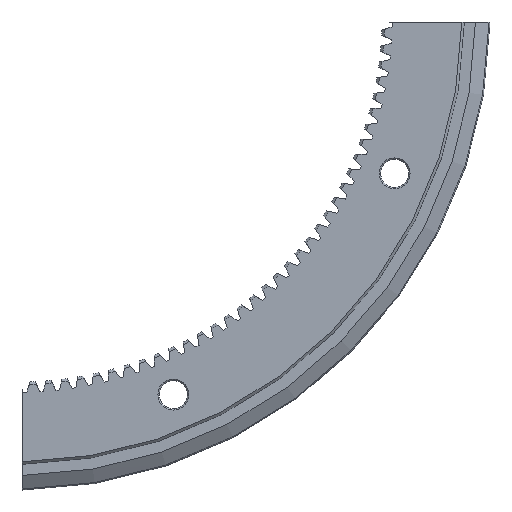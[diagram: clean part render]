
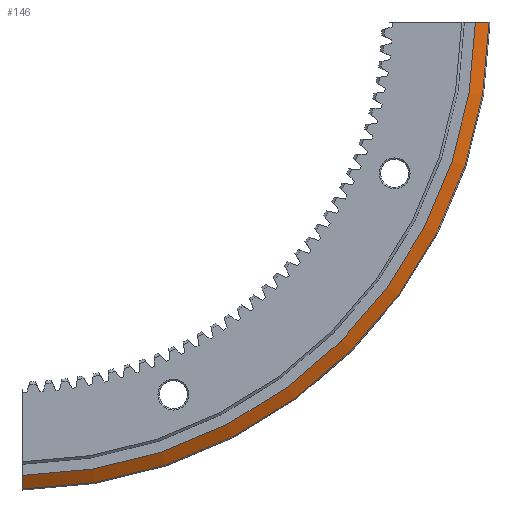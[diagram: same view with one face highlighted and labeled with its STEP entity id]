
A CAD part, front view. The second image highlights one B-rep face of the part: STEP entity #146.
In plain terms, the highlighted conical face has half-angle 55 degrees and reference radius 89.157 mm.
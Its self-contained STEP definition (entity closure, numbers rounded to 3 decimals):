
#146 = ADVANCED_FACE( '', ( #416 ), #417, .T. );
#416 = FACE_OUTER_BOUND( '', #824, .T. );
#417 = CONICAL_SURFACE( '', #825, 89.157, 0.96 );
#824 = EDGE_LOOP( '', ( #1664, #1665, #1666, #1667 ) );
#825 = AXIS2_PLACEMENT_3D( '', #1668, #1669, #1670 );
#1664 = ORIENTED_EDGE( '', *, *, #3193, .T. );
#1665 = ORIENTED_EDGE( '', *, *, #3194, .T. );
#1666 = ORIENTED_EDGE( '', *, *, #3195, .F. );
#1667 = ORIENTED_EDGE( '', *, *, #3187, .T. );
#1668 = CARTESIAN_POINT( '', ( 0., 7.75, 0. ) );
#1669 = DIRECTION( '', ( 0., 1., 0. ) );
#1670 = DIRECTION( '', ( 0., 0., 1. ) );
#3187 = EDGE_CURVE( '', #4117, #4115, #4118, .T. );
#3193 = EDGE_CURVE( '', #4115, #4128, #4129, .T. );
#3194 = EDGE_CURVE( '', #4128, #4130, #4131, .T. );
#3195 = EDGE_CURVE( '', #4117, #4130, #4132, .T. );
#4115 = VERTEX_POINT( '', #5571 );
#4117 = VERTEX_POINT( '', #5582 );
#4118 = B_SPLINE_CURVE_WITH_KNOTS( '', 3, ( #5583, #5584, #5585, #5586 ), .UNSPECIFIED., .F., .F., ( 4, 4 ), ( 0.048, 0.052 ), .UNSPECIFIED. );
#4128 = VERTEX_POINT( '', #5603 );
#4129 = CIRCLE( '', #5604, 91.785 );
#4130 = VERTEX_POINT( '', #5605 );
#4131 = B_SPLINE_CURVE_WITH_KNOTS( '', 3, ( #5606, #5607, #5608, #5609 ), .UNSPECIFIED., .F., .F., ( 4, 4 ), ( 0.082, 0.085 ), .UNSPECIFIED. );
#4132 = CIRCLE( '', #5610, 89.157 );
#5571 = CARTESIAN_POINT( '', ( 1., 9.59, -91.78 ) );
#5582 = CARTESIAN_POINT( '', ( 1., 7.75, -89.151 ) );
#5583 = CARTESIAN_POINT( '', ( 1., 7.75, -89.151 ) );
#5584 = CARTESIAN_POINT( '', ( 1., 8.363, -90.027 ) );
#5585 = CARTESIAN_POINT( '', ( 1., 8.977, -90.903 ) );
#5586 = CARTESIAN_POINT( '', ( 1., 9.59, -91.78 ) );
#5603 = CARTESIAN_POINT( '', ( 91.78, 9.59, -1. ) );
#5604 = AXIS2_PLACEMENT_3D( '', #6157, #6158, #6159 );
#5605 = CARTESIAN_POINT( '', ( 89.151, 7.75, -1. ) );
#5606 = CARTESIAN_POINT( '', ( 91.78, 9.59, -1. ) );
#5607 = CARTESIAN_POINT( '', ( 90.903, 8.977, -1. ) );
#5608 = CARTESIAN_POINT( '', ( 90.027, 8.363, -1. ) );
#5609 = CARTESIAN_POINT( '', ( 89.151, 7.75, -1. ) );
#5610 = AXIS2_PLACEMENT_3D( '', #6160, #6161, #6162 );
#6157 = CARTESIAN_POINT( '', ( 0., 9.59, 0. ) );
#6158 = DIRECTION( '', ( 0., -1., 0. ) );
#6159 = DIRECTION( '', ( 0., 0., -1. ) );
#6160 = CARTESIAN_POINT( '', ( 0., 7.75, 0. ) );
#6161 = DIRECTION( '', ( 0., -1., 0. ) );
#6162 = DIRECTION( '', ( 0., 0., -1. ) );
